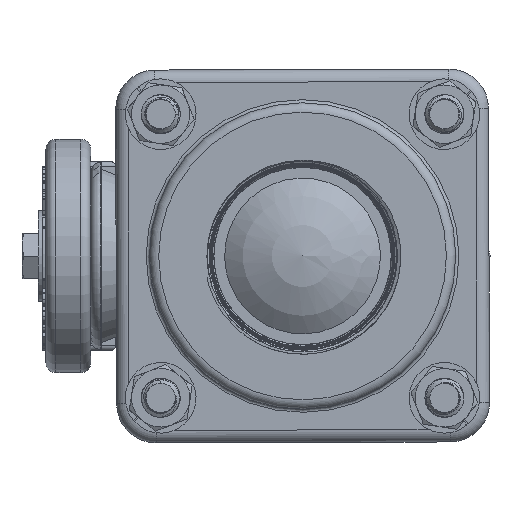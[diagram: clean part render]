
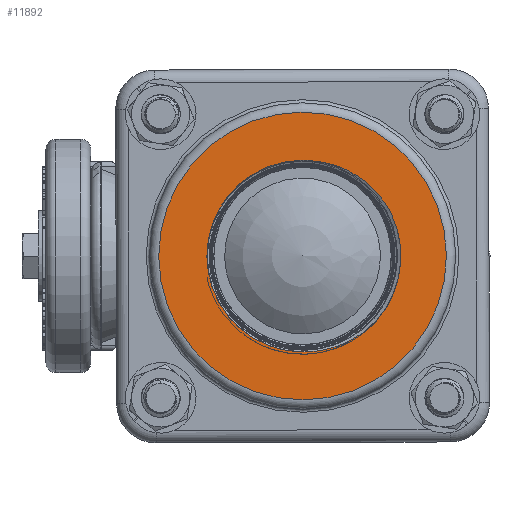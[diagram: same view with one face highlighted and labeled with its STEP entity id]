
A CAD part, left-side view. The second image highlights one B-rep face of the part: STEP entity #11892.
In plain terms, the highlighted planar face has unit normal (-1, 0, 0) as drawn and (0, 0, 1) by its records, which use the part's own axes.
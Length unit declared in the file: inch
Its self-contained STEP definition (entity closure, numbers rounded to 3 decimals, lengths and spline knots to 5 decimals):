
#2372=B_SPLINE_CURVE_WITH_KNOTS('',3,(#22224,#22225,#22226,#22227,#22228,
#22229,#22230,#22231,#22232,#22233,#22234,#22235,#22236,#22237,#22238,#22239,
#22240,#22241),.UNSPECIFIED.,.F.,.U.,(4,2,2,2,2,2,2,2,4),(0.,0.08195,
0.16398,0.95757,1.64639,2.30402,3.02771,
3.75142,4.48298),.UNSPECIFIED.);
#2373=B_SPLINE_CURVE_WITH_KNOTS('',3,(#22246,#22247,#22248,#22249,#22250,
#22251,#22252,#22253,#22254,#22255,#22256,#22257,#22258,#22259,#22260,#22261),
 .UNSPECIFIED.,.F.,.U.,(4,2,2,2,2,2,2,4),(0.,0.93374,1.86477,
2.32114,2.77757,3.68132,4.43425,5.08344),
 .UNSPECIFIED.);
#2734=CIRCLE('',#12622,1.385);
#2735=CIRCLE('',#12624,0.94669);
#2736=CIRCLE('',#12625,0.92148);
#2737=CIRCLE('',#12626,0.92148);
#3708=VERTEX_POINT('',#22222);
#3709=VERTEX_POINT('',#22242);
#3710=VERTEX_POINT('',#22243);
#3711=VERTEX_POINT('',#22245);
#3712=VERTEX_POINT('',#22262);
#3713=VERTEX_POINT('',#22264);
#6466=EDGE_CURVE('',#3708,#3708,#2734,.T.);
#6467=EDGE_CURVE('',#3709,#3710,#2372,.T.);
#6468=EDGE_CURVE('',#3710,#3711,#2735,.T.);
#6469=EDGE_CURVE('',#3711,#3712,#2373,.T.);
#6470=EDGE_CURVE('',#3712,#3713,#2736,.T.);
#6471=EDGE_CURVE('',#3713,#3709,#2737,.T.);
#8991=ORIENTED_EDGE('',*,*,#6467,.T.);
#8992=ORIENTED_EDGE('',*,*,#6468,.T.);
#8993=ORIENTED_EDGE('',*,*,#6469,.T.);
#8994=ORIENTED_EDGE('',*,*,#6470,.T.);
#8995=ORIENTED_EDGE('',*,*,#6471,.T.);
#8996=ORIENTED_EDGE('',*,*,#6466,.F.);
#10514=EDGE_LOOP('',(#8991,#8992,#8993,#8994,#8995));
#10515=EDGE_LOOP('',(#8996));
#11239=FACE_BOUND('',#10514,.T.);
#11240=FACE_BOUND('',#10515,.T.);
#11892=ADVANCED_FACE('',(#11239,#11240),#55103,.T.);
#12622=AXIS2_PLACEMENT_3D('',#22221,#14337,#14338);
#12623=AXIS2_PLACEMENT_3D('',#22223,#14339,$);
#12624=AXIS2_PLACEMENT_3D('',#22244,#14340,#14341);
#12625=AXIS2_PLACEMENT_3D('',#22263,#14342,#14343);
#12626=AXIS2_PLACEMENT_3D('',#22265,#14344,#14345);
#14337=DIRECTION('',(0.,0.,-1.));
#14338=DIRECTION('',(-1.385,0.,0.));
#14339=DIRECTION('',(0.,0.,1.));
#14340=DIRECTION('',(0.,0.,-1.));
#14341=DIRECTION('',(-0.946,-0.024,0.));
#14342=DIRECTION('',(0.,0.,-1.));
#14343=DIRECTION('',(0.921,0.023,0.));
#14344=DIRECTION('',(0.,0.,-1.));
#14345=DIRECTION('',(0.921,0.023,0.));
#22221=CARTESIAN_POINT('',(0.,0.,
1.32));
#22222=CARTESIAN_POINT('',(1.385,0.,1.32));
#22223=CARTESIAN_POINT('',(0.,0.,
1.32));
#22224=CARTESIAN_POINT('',(0.37355,0.81136,1.32));
#22225=CARTESIAN_POINT('',(0.38344,0.80712,1.32));
#22226=CARTESIAN_POINT('',(0.39325,0.80271,1.32));
#22227=CARTESIAN_POINT('',(0.41271,0.79352,1.32));
#22228=CARTESIAN_POINT('',(0.42236,0.78875,1.32));
#22229=CARTESIAN_POINT('',(0.52447,0.73592,1.32));
#22230=CARTESIAN_POINT('',(0.61961,0.66615,1.32));
#22231=CARTESIAN_POINT('',(0.77478,0.48425,1.32));
#22232=CARTESIAN_POINT('',(0.83562,0.38152,1.32));
#22233=CARTESIAN_POINT('',(0.91221,0.14779,1.32));
#22234=CARTESIAN_POINT('',(0.92665,0.02761,1.32));
#22235=CARTESIAN_POINT('',(0.90806,-0.22328,1.32));
#22236=CARTESIAN_POINT('',(0.87128,-0.33911,1.32));
#22237=CARTESIAN_POINT('',(0.77581,-0.53143,1.32));
#22238=CARTESIAN_POINT('',(0.71144,-0.6189,1.32));
#22239=CARTESIAN_POINT('',(0.55668,-0.7679,1.32));
#22240=CARTESIAN_POINT('',(0.46614,-0.82911,1.32));
#22241=CARTESIAN_POINT('',(0.36737,-0.87355,1.32));
#22242=CARTESIAN_POINT('',(0.91972,-0.057,1.32));
#22243=CARTESIAN_POINT('',(0.40257,-0.85683,1.32));
#22244=CARTESIAN_POINT('',(0.,0.,1.32));
#22245=CARTESIAN_POINT('',(-0.50416,-0.80127,1.32));
#22246=CARTESIAN_POINT('',(-0.47128,-0.82221,1.32));
#22247=CARTESIAN_POINT('',(-0.57598,-0.75853,1.32));
#22248=CARTESIAN_POINT('',(-0.6677,-0.67493,1.32));
#22249=CARTESIAN_POINT('',(-0.81351,-0.47693,1.32));
#22250=CARTESIAN_POINT('',(-0.86591,-0.36529,1.32));
#22251=CARTESIAN_POINT('',(-0.90972,-0.18828,1.32));
#22252=CARTESIAN_POINT('',(-0.91841,-0.129,1.32));
#22253=CARTESIAN_POINT('',(-0.9242,-0.00919,1.32));
#22254=CARTESIAN_POINT('',(-0.92127,0.05101,1.32));
#22255=CARTESIAN_POINT('',(-0.89513,0.22783,1.32));
#22256=CARTESIAN_POINT('',(-0.85499,0.34127,1.32));
#22257=CARTESIAN_POINT('',(-0.74354,0.52874,1.32));
#22258=CARTESIAN_POINT('',(-0.67883,0.60579,1.32));
#22259=CARTESIAN_POINT('',(-0.53728,0.72623,1.32));
#22260=CARTESIAN_POINT('',(-0.45371,0.78127,1.32));
#22261=CARTESIAN_POINT('',(-0.35058,0.82194,1.32));
#22262=CARTESIAN_POINT('',(-0.92123,0.02177,1.32));
#22263=CARTESIAN_POINT('',(0.,0.,1.32));
#22264=CARTESIAN_POINT('',(0.9212,0.0229,1.32));
#22265=CARTESIAN_POINT('',(0.,0.,1.32));
#55103=PLANE('',#12623);
